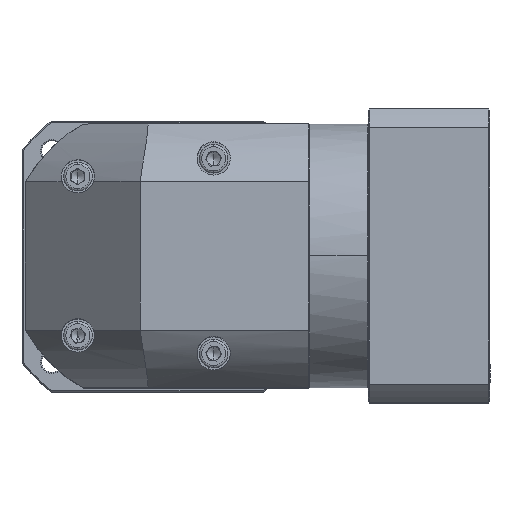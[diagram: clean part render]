
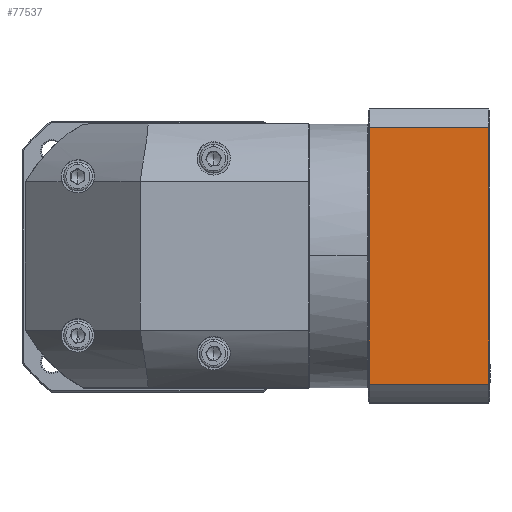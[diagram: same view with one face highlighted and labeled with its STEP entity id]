
A CAD part, top view. The second image highlights one B-rep face of the part: STEP entity #77537.
In plain terms, the highlighted planar face has unit normal (0, 0, 1).
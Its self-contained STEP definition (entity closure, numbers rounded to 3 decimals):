
#667 = CARTESIAN_POINT ( 'NONE',  ( -106.086, 113.89, 76.137 ) ) ;
#1364 = DIRECTION ( 'NONE',  ( -1., 0., 0. ) ) ;
#3548 = VERTEX_POINT ( 'NONE', #53732 ) ;
#12030 = EDGE_CURVE ( 'NONE', #3548, #83855, #130958, .T. ) ;
#27003 = VERTEX_POINT ( 'NONE', #46765 ) ;
#29295 = VECTOR ( 'NONE', #1364, 1000. ) ;
#29540 = CARTESIAN_POINT ( 'NONE',  ( -106.086, 2.016, 76.137 ) ) ;
#32005 = CARTESIAN_POINT ( 'NONE',  ( 189.235, 2.016, 76.137 ) ) ;
#46765 = CARTESIAN_POINT ( 'NONE',  ( 137.235, 2.016, 76.137 ) ) ;
#53468 = CARTESIAN_POINT ( 'NONE',  ( 189.235, 113.89, 76.137 ) ) ;
#53732 = CARTESIAN_POINT ( 'NONE',  ( 137.235, 113.89, 76.137 ) ) ;
#55324 = LINE ( 'NONE', #29540, #29295 ) ;
#58207 = ORIENTED_EDGE ( 'NONE', *, *, #12030, .F. ) ;
#58824 = EDGE_CURVE ( 'NONE', #27003, #3548, #103801, .T. ) ;
#60732 = EDGE_CURVE ( 'NONE', #83855, #123947, #103679, .T. ) ;
#62716 = DIRECTION ( 'NONE',  ( 0., 1., 0. ) ) ;
#63124 = VECTOR ( 'NONE', #92970, 1000. ) ;
#71297 = VECTOR ( 'NONE', #62716, 1000. ) ;
#72479 = CARTESIAN_POINT ( 'NONE',  ( 189.735, 121.953, 76.137 ) ) ;
#73277 = DIRECTION ( 'NONE',  ( 1., 0., 0. ) ) ;
#77537 = ADVANCED_FACE ( 'NONE', ( #116699 ), #83404, .F. ) ;
#82059 = DIRECTION ( 'NONE',  ( 0., -1., 0. ) ) ;
#82304 = EDGE_CURVE ( 'NONE', #123947, #27003, #55324, .T. ) ;
#83030 = CARTESIAN_POINT ( 'NONE',  ( 189.235, 121.953, 76.137 ) ) ;
#83404 = PLANE ( 'NONE',  #91811 ) ;
#83855 = VERTEX_POINT ( 'NONE', #53468 ) ;
#87098 = ORIENTED_EDGE ( 'NONE', *, *, #60732, .F. ) ;
#91811 = AXIS2_PLACEMENT_3D ( 'NONE', #72479, #93357, #82059 ) ;
#92970 = DIRECTION ( 'NONE',  ( 0., -1., 0. ) ) ;
#93357 = DIRECTION ( 'NONE',  ( 0., 0., -1. ) ) ;
#95324 = ORIENTED_EDGE ( 'NONE', *, *, #82304, .F. ) ;
#103679 = LINE ( 'NONE', #83030, #63124 ) ;
#103801 = LINE ( 'NONE', #103923, #71297 ) ;
#103923 = CARTESIAN_POINT ( 'NONE',  ( 137.235, 121.953, 76.137 ) ) ;
#107862 = EDGE_LOOP ( 'NONE', ( #58207, #120578, #95324, #87098 ) ) ;
#116699 = FACE_OUTER_BOUND ( 'NONE', #107862, .T. ) ;
#120578 = ORIENTED_EDGE ( 'NONE', *, *, #58824, .F. ) ;
#123947 = VERTEX_POINT ( 'NONE', #32005 ) ;
#130958 = LINE ( 'NONE', #667, #134246 ) ;
#134246 = VECTOR ( 'NONE', #73277, 1000. ) ;
